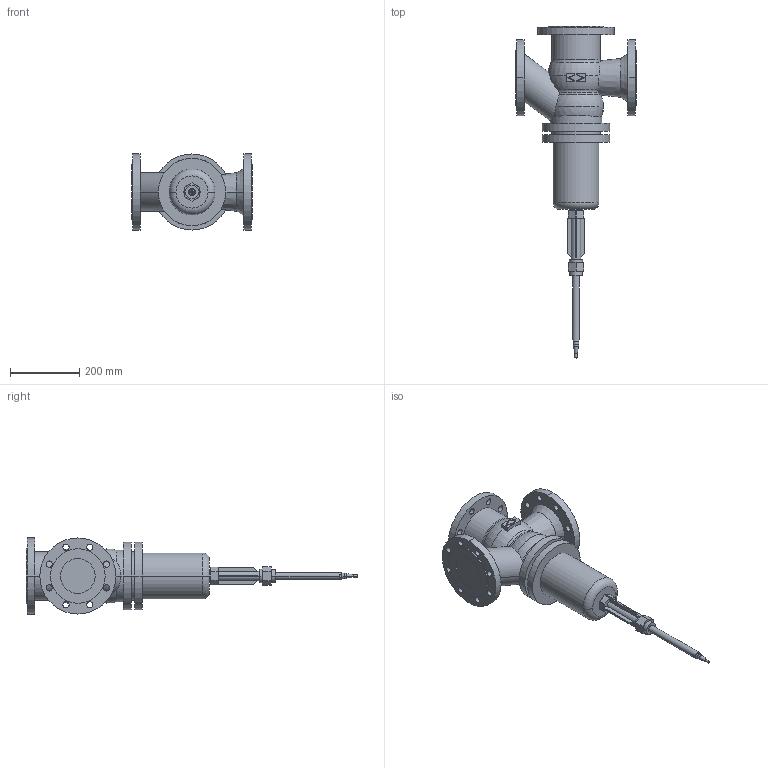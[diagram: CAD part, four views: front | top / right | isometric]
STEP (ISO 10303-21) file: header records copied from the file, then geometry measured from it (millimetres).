
FILE_DESCRIPTION(('CoCreate Modeling STEP Export'),'2;1');
FILE_NAME('c000004792.stp','2011-09-23T10:22:00',(''),(''),'CoCreate Modeling STEP processor for AP214 (Solid Model)','CoCreate Modeling 17.0 01-Apr-2010 (C) Parametric Technology GmbH','');
FILE_SCHEMA(('AUTOMOTIVE_DESIGN { 1 0 10303 214 1 1 1 1 }'));
Length unit declared in the file: millimetre
Products named in the file (1): 1
Bounding box: 350 x 960.44 x 220 mm (x, y, z)
Volume: 13210040.8 mm3; surface area: 652768.6 mm2
Topology: 1 solids, 1 shells, 214 faces, 549 edges, 355 vertices
Faces by surface type: cylinder 106, plane 80, torus 12, cone 12, sphere 4
Entity records: 7707 total; most frequent: CARTESIAN_POINT 1190, ORIENTED_EDGE 1090, DIRECTION 848, EDGE_CURVE 545, VERTEX_POINT 355, AXIS2_PLACEMENT_3D 305, EDGE_LOOP 284, VECTOR 238
